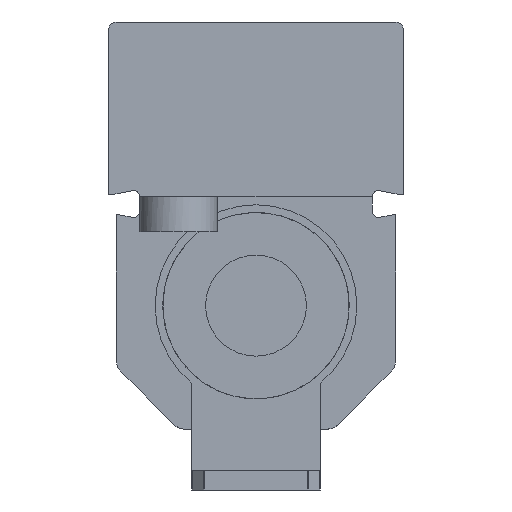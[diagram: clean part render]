
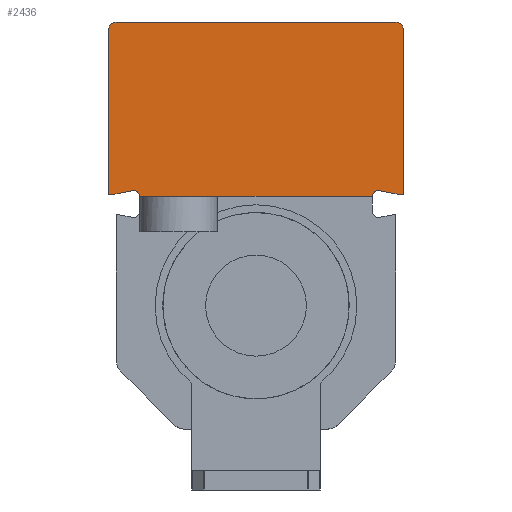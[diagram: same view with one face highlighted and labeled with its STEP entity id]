
A CAD part, front view. The second image highlights one B-rep face of the part: STEP entity #2436.
In plain terms, the highlighted planar face has unit normal (0, -1, 0).
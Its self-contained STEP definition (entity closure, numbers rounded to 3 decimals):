
#57=CIRCLE('',#2527,2.);
#59=CIRCLE('',#2530,0.3);
#91=CIRCLE('',#2592,1.6);
#100=CIRCLE('',#2609,1.6);
#101=CIRCLE('',#2610,2.);
#102=CIRCLE('',#2611,0.3);
#466=ORIENTED_EDGE('',*,*,#868,.T.);
#467=ORIENTED_EDGE('',*,*,#883,.T.);
#468=ORIENTED_EDGE('',*,*,#884,.T.);
#469=ORIENTED_EDGE('',*,*,#814,.T.);
#470=ORIENTED_EDGE('',*,*,#761,.T.);
#471=ORIENTED_EDGE('',*,*,#778,.T.);
#472=ORIENTED_EDGE('',*,*,#757,.T.);
#473=ORIENTED_EDGE('',*,*,#754,.T.);
#474=ORIENTED_EDGE('',*,*,#885,.T.);
#475=ORIENTED_EDGE('',*,*,#886,.T.);
#476=ORIENTED_EDGE('',*,*,#887,.T.);
#477=ORIENTED_EDGE('',*,*,#888,.T.);
#754=EDGE_CURVE('',#1003,#1002,#1157,.T.);
#757=EDGE_CURVE('',#1005,#1003,#57,.T.);
#761=EDGE_CURVE('',#1009,#1008,#59,.T.);
#778=EDGE_CURVE('',#1008,#1005,#1170,.T.);
#814=EDGE_CURVE('',#1051,#1009,#1197,.T.);
#868=EDGE_CURVE('',#1081,#1080,#91,.T.);
#883=EDGE_CURVE('',#1080,#1085,#1236,.T.);
#884=EDGE_CURVE('',#1085,#1051,#100,.T.);
#885=EDGE_CURVE('',#1002,#1086,#101,.T.);
#886=EDGE_CURVE('',#1086,#1087,#1237,.T.);
#887=EDGE_CURVE('',#1087,#1088,#102,.T.);
#888=EDGE_CURVE('',#1088,#1081,#1238,.T.);
#1002=VERTEX_POINT('',#3364);
#1003=VERTEX_POINT('',#3366);
#1005=VERTEX_POINT('',#3372);
#1008=VERTEX_POINT('',#3379);
#1009=VERTEX_POINT('',#3381);
#1051=VERTEX_POINT('',#3502);
#1080=VERTEX_POINT('',#3606);
#1081=VERTEX_POINT('',#3608);
#1085=VERTEX_POINT('',#3635);
#1086=VERTEX_POINT('',#3638);
#1087=VERTEX_POINT('',#3640);
#1088=VERTEX_POINT('',#3642);
#1157=LINE('',#3365,#1320);
#1170=LINE('',#3418,#1333);
#1197=LINE('',#3501,#1360);
#1236=LINE('',#3634,#1399);
#1237=LINE('',#3639,#1400);
#1238=LINE('',#3643,#1401);
#1320=VECTOR('',#2811,1000.);
#1333=VECTOR('',#2858,1000.);
#1360=VECTOR('',#2915,1000.);
#1399=VECTOR('',#3058,1000.);
#1400=VECTOR('',#3063,1000.);
#1401=VECTOR('',#3066,1000.);
#1496=EDGE_LOOP('',(#466,#467,#468,#469,#470,#471,#472,#473,#474,#475,#476,
#477));
#1606=FACE_BOUND('',#1496,.T.);
#1681=PLANE('',#2608);
#2436=ADVANCED_FACE('',(#1606),#1681,.T.);
#2527=AXIS2_PLACEMENT_3D('',#3371,#2817,#2818);
#2530=AXIS2_PLACEMENT_3D('',#3380,#2825,#2826);
#2592=AXIS2_PLACEMENT_3D('',#3607,#3018,#3019);
#2608=AXIS2_PLACEMENT_3D('',#3633,#3056,#3057);
#2609=AXIS2_PLACEMENT_3D('',#3636,#3059,#3060);
#2610=AXIS2_PLACEMENT_3D('',#3637,#3061,#3062);
#2611=AXIS2_PLACEMENT_3D('',#3641,#3064,#3065);
#2811=DIRECTION('',(-1.,0.,0.));
#2817=DIRECTION('',(0.,-1.,0.));
#2818=DIRECTION('',(0.,0.,-1.));
#2825=DIRECTION('',(0.,-1.,0.));
#2826=DIRECTION('',(0.,0.,-1.));
#2858=DIRECTION('',(0.,0.,1.));
#2915=DIRECTION('',(0.982,0.,-0.191));
#3018=DIRECTION('',(0.,1.,0.));
#3019=DIRECTION('',(1.,0.,0.));
#3056=DIRECTION('',(0.,-1.,0.));
#3057=DIRECTION('',(0.,0.,-1.));
#3058=DIRECTION('',(1.,0.,0.));
#3059=DIRECTION('',(0.,1.,0.));
#3060=DIRECTION('',(1.,0.,0.));
#3061=DIRECTION('',(0.,-1.,0.));
#3062=DIRECTION('',(0.,0.,-1.));
#3063=DIRECTION('',(0.,0.,-1.));
#3064=DIRECTION('',(0.,-1.,0.));
#3065=DIRECTION('',(1.,0.,0.));
#3066=DIRECTION('',(0.982,0.,0.191));
#3364=CARTESIAN_POINT('',(-36.,-164.5,59.15));
#3365=CARTESIAN_POINT('',(36.,-164.5,59.15));
#3366=CARTESIAN_POINT('',(36.,-164.5,59.15));
#3371=CARTESIAN_POINT('',(36.,-164.5,57.15));
#3372=CARTESIAN_POINT('',(38.,-164.5,57.15));
#3379=CARTESIAN_POINT('',(38.,-164.5,14.864));
#3380=CARTESIAN_POINT('',(37.7,-164.5,14.864));
#3381=CARTESIAN_POINT('',(37.643,-164.5,14.569));
#3418=CARTESIAN_POINT('',(38.,-164.5,14.864));
#3501=CARTESIAN_POINT('',(31.905,-164.5,15.685));
#3502=CARTESIAN_POINT('',(31.905,-164.5,15.685));
#3606=CARTESIAN_POINT('',(-30.006,-164.5,14.25));
#3607=CARTESIAN_POINT('',(-31.6,-164.5,14.114));
#3608=CARTESIAN_POINT('',(-31.905,-164.5,15.685));
#3633=CARTESIAN_POINT('',(36.,-164.5,43.75));
#3634=CARTESIAN_POINT('',(36.,-164.5,14.25));
#3635=CARTESIAN_POINT('',(30.006,-164.5,14.25));
#3636=CARTESIAN_POINT('',(31.6,-164.5,14.114));
#3637=CARTESIAN_POINT('',(-36.,-164.5,57.15));
#3638=CARTESIAN_POINT('',(-38.,-164.5,57.15));
#3639=CARTESIAN_POINT('',(-38.,-164.5,43.75));
#3640=CARTESIAN_POINT('',(-38.,-164.5,14.864));
#3641=CARTESIAN_POINT('',(-37.7,-164.5,14.864));
#3642=CARTESIAN_POINT('',(-37.643,-164.5,14.569));
#3643=CARTESIAN_POINT('',(-37.643,-164.5,14.569));
